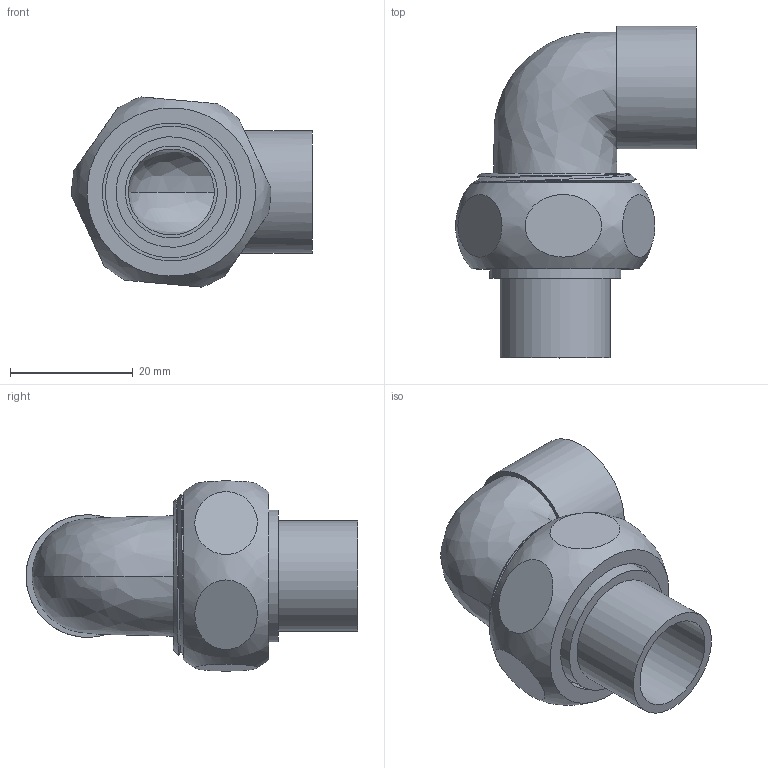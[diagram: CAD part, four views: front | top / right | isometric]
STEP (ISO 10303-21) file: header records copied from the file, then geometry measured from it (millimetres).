
FILE_DESCRIPTION((''),'2;1');
FILE_NAME('C:\Users\gomulka\Desktop\Lohse\1409615\1409615.stp','2014-08-28T09:20:28',('gomulka'),(''),'Autodesk Inventor 2009','Autodesk Inventor 2009','');
FILE_SCHEMA(('AUTOMOTIVE_DESIGN { 1 0 10303 214 1 1 1 1 }'));
Length unit declared in the file: millimetre
Products named in the file (4): 1409615; 1E4098G1534; 14381_15-34(1); 14374_34(2)
Assembly tree (3 placements, depth 2):
  1409615
    1E4098G1534
    14381_15-34(1)
    14374_34(2)
Bounding box: 39.24 x 54.1 x 30.99 mm (x, y, z)
Volume: 14224.3 mm3; surface area: 11674.2 mm2
Topology: 3 solids, 3 shells, 42 faces, 98 edges, 73 vertices
Faces by surface type: plane 18, cylinder 11, bspline 7, cone 5, torus 1
Full cylindrical faces by diameter (mm): 14 x1, 15 x2, 18 x1, 20 x1, 21 x1, 21.5 x1, 22.5 x1, 23.5 x1, 24.117 x1
Entity records: 3688 total; most frequent: CARTESIAN_POINT 2769, ORIENTED_EDGE 160, DIRECTION 136, EDGE_CURVE 80, EDGE_LOOP 74, VERTEX_POINT 72, AXIS2_PLACEMENT_3D 68, FACE_OUTER_BOUND 41
